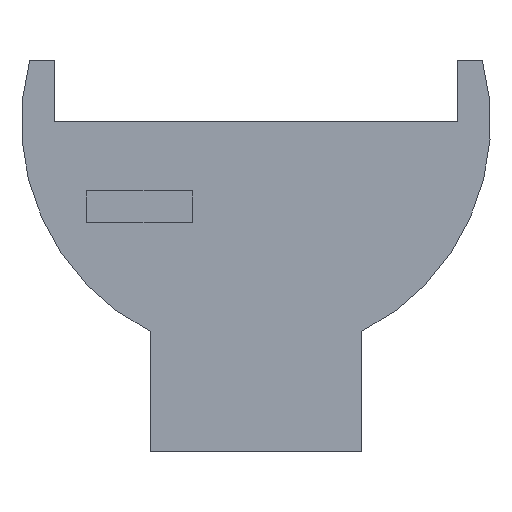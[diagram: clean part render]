
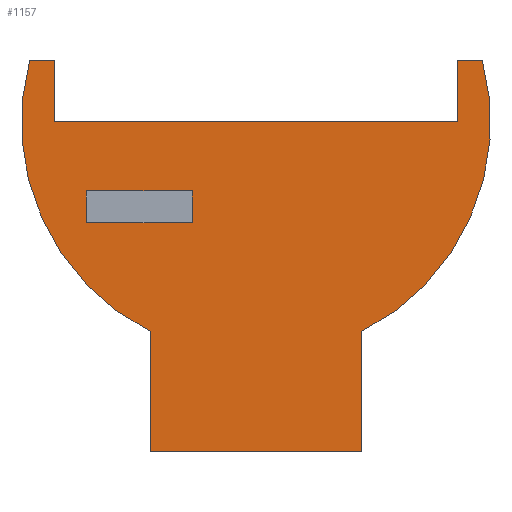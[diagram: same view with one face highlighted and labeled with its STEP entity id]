
A CAD part, front view. The second image highlights one B-rep face of the part: STEP entity #1157.
In plain terms, the highlighted planar face has unit normal (0, -1, 0).
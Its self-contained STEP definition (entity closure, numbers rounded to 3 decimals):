
#40=CIRCLE('',#1241,11.075);
#43=CIRCLE('',#1245,11.075);
#46=FACE_BOUND('',#163,.T.);
#102=FACE_OUTER_BOUND('',#162,.T.);
#162=EDGE_LOOP('',(#1000,#1001,#1002,#1003,#1004,#1005,#1006,#1007,#1008,
#1009));
#163=EDGE_LOOP('',(#1010,#1011,#1012,#1013));
#204=LINE('',#1636,#346);
#208=LINE('',#1644,#350);
#211=LINE('',#1650,#353);
#214=LINE('',#1655,#356);
#218=LINE('',#1665,#360);
#288=LINE('',#1840,#430);
#292=LINE('',#1847,#434);
#300=LINE('',#1872,#442);
#302=LINE('',#1876,#444);
#304=LINE('',#1880,#446);
#306=LINE('',#1883,#448);
#307=LINE('',#1884,#449);
#346=VECTOR('',#1321,10.);
#350=VECTOR('',#1327,10.);
#353=VECTOR('',#1332,10.);
#356=VECTOR('',#1337,10.);
#360=VECTOR('',#1345,10.);
#430=VECTOR('',#1505,10.);
#434=VECTOR('',#1511,10.);
#442=VECTOR('',#1537,10.);
#444=VECTOR('',#1541,10.);
#446=VECTOR('',#1545,10.);
#448=VECTOR('',#1549,10.);
#449=VECTOR('',#1550,10.);
#476=VERTEX_POINT('',#1634);
#477=VERTEX_POINT('',#1635);
#480=VERTEX_POINT('',#1643);
#482=VERTEX_POINT('',#1649);
#486=VERTEX_POINT('',#1662);
#487=VERTEX_POINT('',#1664);
#547=VERTEX_POINT('',#1839);
#549=VERTEX_POINT('',#1845);
#550=VERTEX_POINT('',#1849);
#553=VERTEX_POINT('',#1857);
#556=VERTEX_POINT('',#1869);
#557=VERTEX_POINT('',#1871);
#558=VERTEX_POINT('',#1875);
#559=VERTEX_POINT('',#1879);
#596=EDGE_CURVE('',#476,#477,#204,.T.);
#600=EDGE_CURVE('',#480,#476,#208,.T.);
#603=EDGE_CURVE('',#482,#480,#211,.T.);
#606=EDGE_CURVE('',#477,#482,#214,.T.);
#610=EDGE_CURVE('',#486,#487,#218,.T.);
#698=EDGE_CURVE('',#487,#547,#288,.T.);
#702=EDGE_CURVE('',#549,#486,#292,.T.);
#703=EDGE_CURVE('',#550,#547,#40,.T.);
#708=EDGE_CURVE('',#549,#553,#43,.T.);
#714=EDGE_CURVE('',#557,#556,#300,.T.);
#716=EDGE_CURVE('',#558,#557,#302,.T.);
#718=EDGE_CURVE('',#559,#558,#304,.T.);
#720=EDGE_CURVE('',#556,#550,#306,.F.);
#721=EDGE_CURVE('',#553,#559,#307,.F.);
#1000=ORIENTED_EDGE('',*,*,#718,.T.);
#1001=ORIENTED_EDGE('',*,*,#716,.T.);
#1002=ORIENTED_EDGE('',*,*,#714,.T.);
#1003=ORIENTED_EDGE('',*,*,#720,.T.);
#1004=ORIENTED_EDGE('',*,*,#703,.T.);
#1005=ORIENTED_EDGE('',*,*,#698,.F.);
#1006=ORIENTED_EDGE('',*,*,#610,.F.);
#1007=ORIENTED_EDGE('',*,*,#702,.F.);
#1008=ORIENTED_EDGE('',*,*,#708,.T.);
#1009=ORIENTED_EDGE('',*,*,#721,.T.);
#1010=ORIENTED_EDGE('',*,*,#596,.T.);
#1011=ORIENTED_EDGE('',*,*,#606,.T.);
#1012=ORIENTED_EDGE('',*,*,#603,.T.);
#1013=ORIENTED_EDGE('',*,*,#600,.T.);
#1099=PLANE('',#1251);
#1157=ADVANCED_FACE('',(#102,#46),#1099,.T.);
#1241=AXIS2_PLACEMENT_3D('',#1850,#1514,#1515);
#1245=AXIS2_PLACEMENT_3D('',#1859,#1524,#1525);
#1251=AXIS2_PLACEMENT_3D('',#1882,#1547,#1548);
#1321=DIRECTION('',(0.,0.,1.));
#1327=DIRECTION('',(-1.,0.,0.));
#1332=DIRECTION('',(0.,0.,-1.));
#1337=DIRECTION('',(1.,0.,0.));
#1345=DIRECTION('',(-1.,0.,0.));
#1505=DIRECTION('',(0.,0.,1.));
#1511=DIRECTION('',(0.,0.,-1.));
#1514=DIRECTION('center_axis',(0.,-1.,0.));
#1515=DIRECTION('ref_axis',(-1.,0.,0.));
#1524=DIRECTION('center_axis',(0.,-1.,0.));
#1525=DIRECTION('ref_axis',(-1.,0.,0.));
#1537=DIRECTION('',(0.,0.,1.));
#1541=DIRECTION('',(-1.,0.,0.));
#1545=DIRECTION('',(0.,0.,-1.));
#1547=DIRECTION('center_axis',(0.,-1.,0.));
#1548=DIRECTION('ref_axis',(-1.,0.,0.));
#1549=DIRECTION('',(1.,0.,0.));
#1550=DIRECTION('',(1.,0.,0.));
#1634=CARTESIAN_POINT('',(-3.,0.,10.825));
#1635=CARTESIAN_POINT('',(-3.,0.,12.325));
#1636=CARTESIAN_POINT('',(-3.,0.,10.413));
#1643=CARTESIAN_POINT('',(2.,0.,10.825));
#1644=CARTESIAN_POINT('',(3.5,0.,10.825));
#1649=CARTESIAN_POINT('',(2.,0.,12.325));
#1650=CARTESIAN_POINT('',(2.,0.,11.163));
#1655=CARTESIAN_POINT('',(1.,0.,12.325));
#1662=CARTESIAN_POINT('',(10.,0.,0.));
#1664=CARTESIAN_POINT('',(0.,0.,0.));
#1665=CARTESIAN_POINT('',(10.,0.,0.));
#1839=CARTESIAN_POINT('',(0.,0.,5.693));
#1840=CARTESIAN_POINT('',(0.,0.,3.));
#1845=CARTESIAN_POINT('',(10.,0.,5.693));
#1847=CARTESIAN_POINT('',(10.,0.,6.));
#1849=CARTESIAN_POINT('',(-5.682,0.,18.501));
#1850=CARTESIAN_POINT('Origin',(5.,0.,15.575));
#1857=CARTESIAN_POINT('',(15.682,0.,18.501));
#1859=CARTESIAN_POINT('Origin',(5.,0.,15.575));
#1869=CARTESIAN_POINT('',(-4.5,0.,18.501));
#1871=CARTESIAN_POINT('',(-4.5,0.,15.575));
#1872=CARTESIAN_POINT('',(-4.5,0.,12.788));
#1875=CARTESIAN_POINT('',(14.5,0.,15.575));
#1876=CARTESIAN_POINT('',(9.75,0.,15.575));
#1879=CARTESIAN_POINT('',(14.5,0.,18.501));
#1880=CARTESIAN_POINT('',(14.5,0.,14.25));
#1882=CARTESIAN_POINT('Origin',(5.,0.,10.));
#1883=CARTESIAN_POINT('',(-0.537,0.,18.501));
#1884=CARTESIAN_POINT('',(-0.537,0.,18.501));
